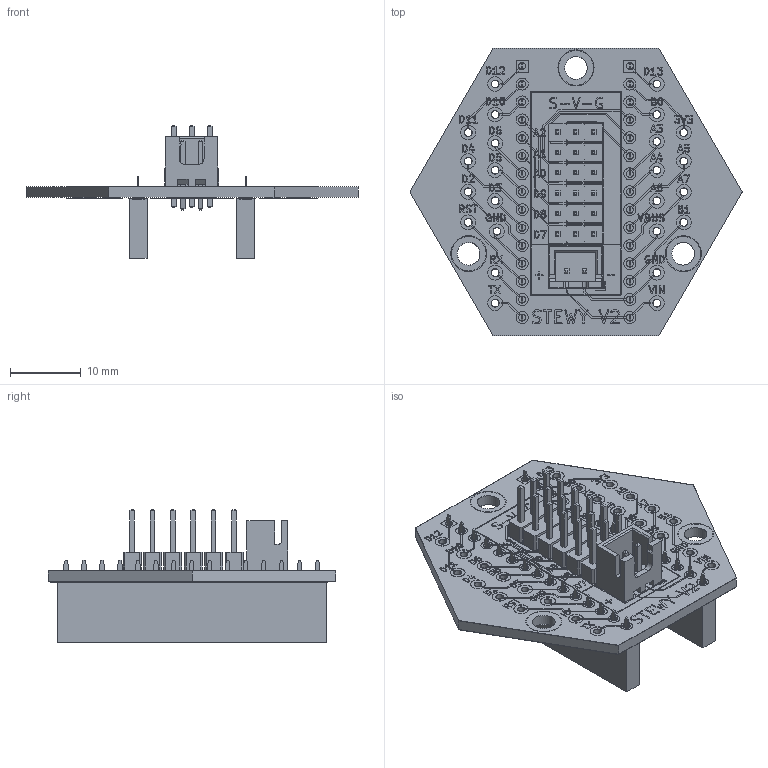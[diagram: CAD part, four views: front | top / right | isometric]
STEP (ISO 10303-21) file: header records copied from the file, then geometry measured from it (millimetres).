
FILE_DESCRIPTION(('KiCad electronic assembly'),'2;1');
FILE_NAME('Stewy_Base_PCB.step','2025-12-18T06:47:18',('Pcbnew'),( 'Kicad'),'Open CASCADE STEP processor 7.9','KiCad to STEP converter' ,'Unknown');
FILE_SCHEMA(('AUTOMOTIVE_DESIGN { 1 0 10303 214 1 1 1 1 }'));
Length unit declared in the file: millimetre
Products named in the file (9): Stewy_Base_PCB 1; PinHeader_1x03_P2.54mm_Vertical; JST_XH_B2B-XH-A_1x02_P2.50mm_Vertical; PinSocket_1x15_P2.54mm_Vertical; Stewy_PCB_V2_copper; Stewy_PCB_V2_pad; Stewy_PCB_V2_silkscreen; Stewy_PCB_V2_soldermask; Stewy_PCB_V2_PCB
Assembly tree (14 placements, depth 2):
  Stewy_Base_PCB 1
    PinHeader_1x03_P2.54mm_Vertical  x6
    JST_XH_B2B-XH-A_1x02_P2.50mm_Vertical
    PinSocket_1x15_P2.54mm_Vertical  x2
    Stewy_PCB_V2_copper
    Stewy_PCB_V2_pad
    Stewy_PCB_V2_silkscreen
    Stewy_PCB_V2_soldermask
    Stewy_PCB_V2_PCB
Bounding box: 46.94 x 40.69 x 18.72 mm (x, y, z)
Volume: 4114.3 mm3; surface area: 11280.2 mm2
Topology: 278 solids, 462 shells, 3149 faces, 10540 edges, 8231 vertices
Faces by surface type: plane 2579, cylinder 570
Full cylindrical faces by diameter (mm): 0.95 x150, 1 x100, 1.05 x72, 1.1 x48, 1.7 x80, 2.1 x48, 3.2 x3
Entity records: 103841 total; most frequent: CARTESIAN_POINT 17975, DIRECTION 15593, ORIENTED_EDGE 13305, EDGE_CURVE 8596, VERTEX_POINT 6995, LINE 6367, VECTOR 6367, AXIS2_PLACEMENT_3D 4613
